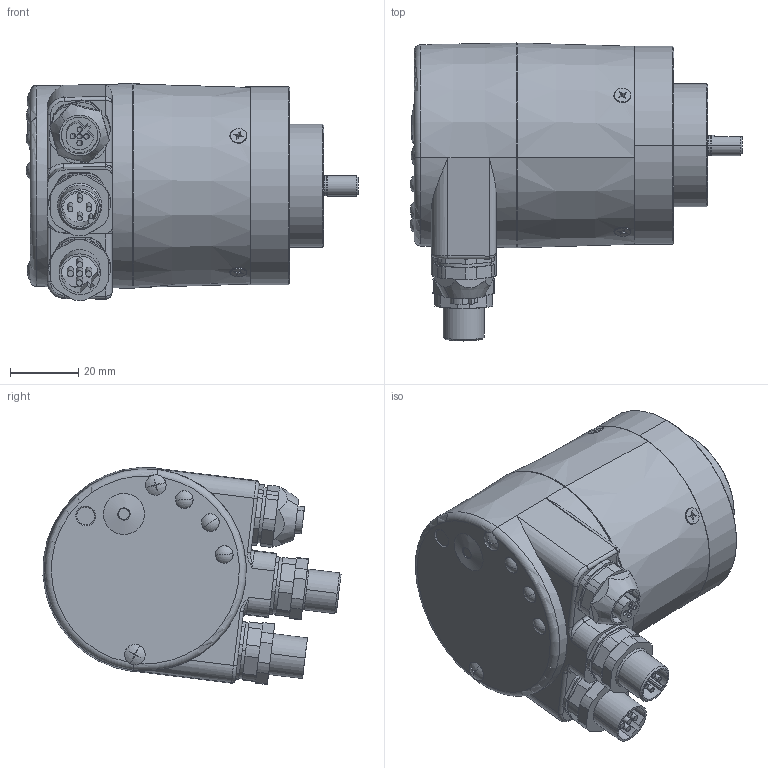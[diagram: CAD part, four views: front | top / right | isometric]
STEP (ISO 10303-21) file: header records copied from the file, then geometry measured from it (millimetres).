
FILE_DESCRIPTION (( 'STEP AP214' ), '1' );
FILE_NAME ('5868.1132.XXXX.STEP', '2008-06-12T09:48:52', ( 'admin' ), ( 'Fritz Kübler GmbH' ), 'SwSTEP 2.0', 'SolidWorks 2007', '' );
FILE_SCHEMA (( 'AUTOMOTIVE_DESIGN' ));
Length unit declared in the file: millimetre
Products named in the file (1): 5868.1132.XXXX
Bounding box: 97.15 x 87.2 x 63.55 mm (x, y, z)
Surface area: 29565 mm2 (no closed solid volume)
Topology: 0 solids, 26 shells, 468 faces, 1202 edges, 767 vertices
Faces by surface type: plane 203, cylinder 179, cone 50, torus 16, sphere 11, bspline 9
Entity records: 19945 total; most frequent: CARTESIAN_POINT 3245, DIRECTION 2578, ORIENTED_EDGE 2205, EDGE_CURVE 1197, AXIS2_PLACEMENT_3D 966, VERTEX_POINT 767, LINE 646, VECTOR 646
